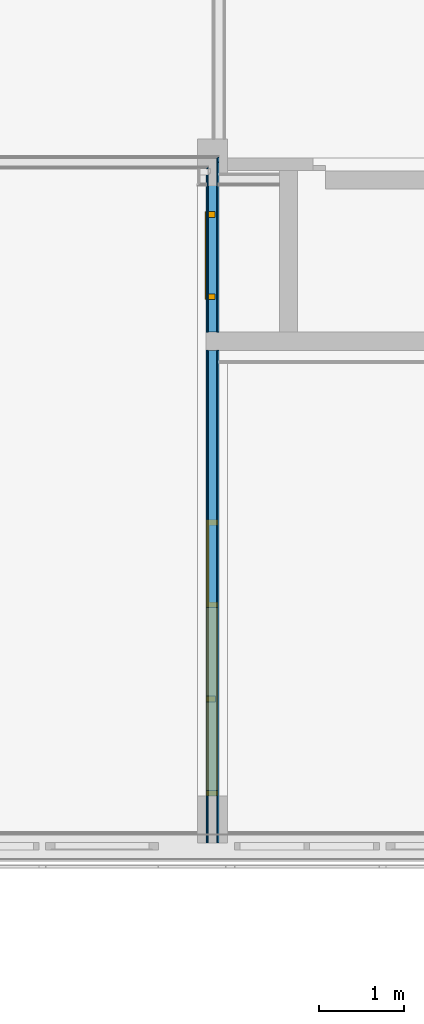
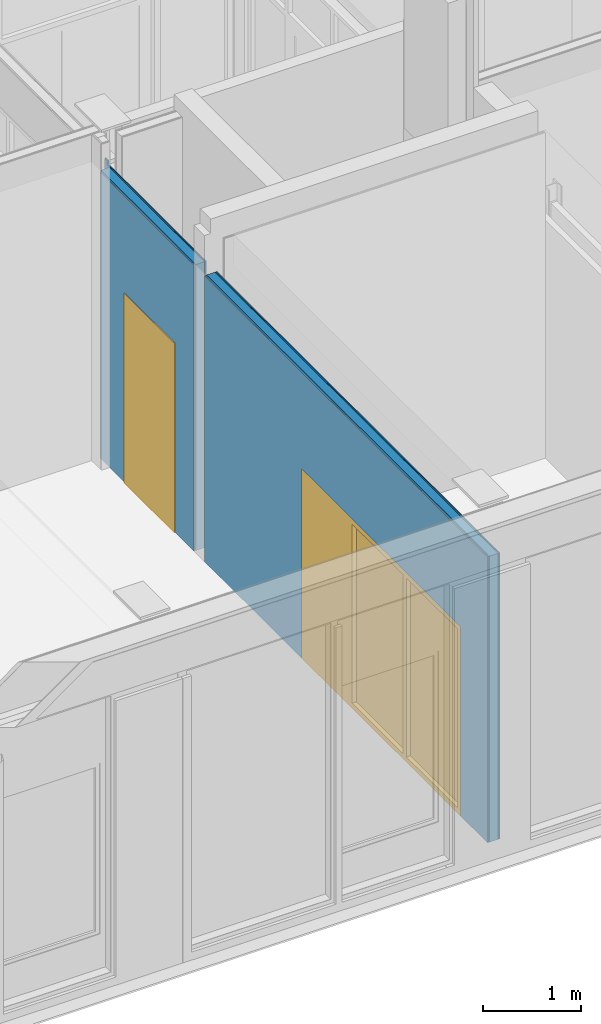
# One storey, part 25 of 109: 5 building element parts, 2 doors, 2 openings, 1 element without a shape of its own.
"""IFC2X3 building model written with IfcOpenShell, lengths in millimetres."""

import ifcopenshell
import ifcopenshell.guid

model = None  # the IFC model being written
_history = None  # IfcOwnerHistory: only IFC2X3 demands one
_inside = {}  # id of a spatial element -> (the spatial element, [elements in it])
_under = {}  # id of a project, library or spatial element -> (it, [spatial elements below it])
_declared = {}  # id of a project -> (the project, [libraries it declares])
_typed = {}  # id of a type object -> (the type object, [elements of that type])
_made_of = {}  # id of a material, layer set ... -> (it, [elements and type objects made of it])


def new_model(schema):
    """Start an empty IFC model of exactly this schema.

    Asked for "IFC4X3", IfcOpenShell would pick the latest addendum, in which some entities
    have other attributes; the version numbers below select the first issue.
    IFC2X3 requires an IfcOwnerHistory on every rooted entity: one is made here for all.
    """
    global model, _history
    if schema == "IFC4X3":
        model = ifcopenshell.file(schema_version=(4, 3, 0, 0))
    else:
        model = ifcopenshell.file(schema=schema)
    _inside.clear()
    _under.clear()
    _declared.clear()
    _typed.clear()
    _made_of.clear()
    _history = None
    if model.schema == "IFC2X3":
        org = make("IfcOrganization", Name="unknown")
        user = make(
            "IfcPersonAndOrganization",
            ThePerson=make("IfcPerson", FamilyName="unknown"),
            TheOrganization=org,
        )
        app = make(
            "IfcApplication",
            ApplicationDeveloper=org,
            Version="unknown",
            ApplicationFullName="unknown",
            ApplicationIdentifier="unknown",
        )
        _history = make(
            "IfcOwnerHistory",
            OwningUser=user,
            OwningApplication=app,
            ChangeAction="ADDED",
            CreationDate=0,
        )
    return model


def make(cls, **values):
    """One entity of the class cls with the attributes given. An attribute that is None is left unset."""
    return model.create_entity(
        cls, **{name: value for name, value in values.items() if value is not None}
    )


def entity(cls, *values):
    """Any entity or typed value of the class cls, its attributes in the order of the schema. None: left unset."""
    e = model.create_entity(cls)
    for i, value in enumerate(values):
        if value is not None:
            e[i] = value
    return e


def rooted(cls, **values):
    """An entity with a GlobalId (a new one), such as an element, a storey or a relation."""
    return make(cls, GlobalId=ifcopenshell.guid.new(), OwnerHistory=_history, **values)


def si_unit(unit_type, name, prefix=None):
    """IfcSIUnit, for example si_unit("LENGTHUNIT", "METRE", prefix="MILLI")."""
    return make("IfcSIUnit", UnitType=unit_type, Prefix=prefix, Name=name)


def converted_unit(unit_type, name, factor, base, dimensions=None, offset=None):
    """IfcConversionBasedUnit, such as the inch: factor (a typed value) times the base unit."""
    return make(
        "IfcConversionBasedUnit"
        if offset is None
        else "IfcConversionBasedUnitWithOffset",
        ConversionOffset=offset,
        Dimensions=None
        if dimensions is None
        else entity("IfcDimensionalExponents", *dimensions),
        UnitType=unit_type,
        Name=name,
        ConversionFactor=make(
            "IfcMeasureWithUnit", ValueComponent=factor, UnitComponent=base
        ),
    )


def derived_unit(unit_type, elements):
    """IfcDerivedUnit: a product of units, each with its exponent."""
    return make(
        "IfcDerivedUnit",
        Elements=[
            make("IfcDerivedUnitElement", Unit=unit, Exponent=power)
            for unit, power in elements
        ],
        UnitType=unit_type,
    )


def money_unit(currency):
    """IfcMonetaryUnit."""
    return make("IfcMonetaryUnit", Currency=currency)


def assignment(units):
    """IfcUnitAssignment: the units of a project."""
    return None if units is None else make("IfcUnitAssignment", Units=units)


def point(xyz):
    """IfcCartesianPoint."""
    return None if xyz is None else make("IfcCartesianPoint", Coordinates=xyz)


def direction(xyz):
    """IfcDirection."""
    return None if xyz is None else make("IfcDirection", DirectionRatios=xyz)


def frame(location, z_axis=None, x_axis=None):
    """IfcAxis2Placement3D, a coordinate frame: its origin and axes. An axis left out is left unset."""
    return make(
        "IfcAxis2Placement3D",
        Location=point(location),
        Axis=direction(z_axis),
        RefDirection=direction(x_axis),
    )


def origin_with_axes():
    """The frame at (0, 0, 0) with the z axis (0, 0, 1) and the x axis (1, 0, 0) written out."""
    return frame((0.0, 0.0, 0.0), z_axis=(0.0, 0.0, 1.0), x_axis=(1.0, 0.0, 0.0))


def place(relative_to, where):
    """IfcLocalPlacement: puts the frame where relative to a parent placement (None: the world)."""
    return make(
        "IfcLocalPlacement", PlacementRelTo=relative_to, RelativePlacement=where
    )


def context(
    kind, dimensions, precision=None, world=None, true_north=None, identifier=None
):
    """IfcGeometricRepresentationContext, for example the 3D "Model" context."""
    return make(
        "IfcGeometricRepresentationContext",
        ContextIdentifier=identifier,
        ContextType=kind,
        CoordinateSpaceDimension=dimensions,
        Precision=precision,
        WorldCoordinateSystem=world,
        TrueNorth=true_north,
    )


def subcontext(parent, identifier, kind, view, scale=None):
    """IfcGeometricRepresentationSubContext, for example "Body" below "Model"."""
    return make(
        "IfcGeometricRepresentationSubContext",
        ContextIdentifier=identifier,
        ContextType=kind,
        ParentContext=parent,
        TargetScale=scale,
        TargetView=view,
    )


def project(units=None, contexts=None):
    """IfcProject with its units and contexts."""
    return rooted(
        "IfcProject",
        Name="project",
        RepresentationContexts=contexts,
        UnitsInContext=assignment(units),
    )


def spatial(cls, under=None, at=None, **own):
    """A site, building, storey or space (cls), placed at a placement, below another one or the project."""
    s = rooted(cls, ObjectPlacement=at, **own)
    if under is not None:
        _under.setdefault(under.id(), (under, []))[1].append(s)
    return s


def faces_of(points, faces, orient=None, outer=None):
    """IfcFace entities. A face is a list of loops; a loop is a list of indices into points, from 0.

    orient and outer hold one flag for each loop. By default every Orientation is true, the
    first loop of a face is its IfcFaceOuterBound and the others are IfcFaceBound.
    """
    made = []
    for i, loops in enumerate(faces):
        bounds = []
        for j, loop in enumerate(loops):
            is_outer = j == 0 if outer is None else outer[i][j]
            bounds.append(
                make(
                    "IfcFaceOuterBound" if is_outer else "IfcFaceBound",
                    Bound=make("IfcPolyLoop", Polygon=[points[k] for k in loop]),
                    Orientation=True if orient is None else orient[i][j],
                )
            )
        made.append(make("IfcFace", Bounds=bounds))
    return made


def open_shell(faces, orient=None, outer=None):
    """The faces of one IfcOpenShell. surface_model builds it on its shared points."""
    return ("IfcOpenShell", faces, orient, outer)


def faceted_brep(points, faces, orient=None, outer=None, voids=None):
    """IfcFacetedBrep: a solid bounded by flat faces; with voids (closed shells), ...WithVoids."""
    shared = [point(p) for p in points]
    hull = make("IfcClosedShell", CfsFaces=faces_of(shared, faces, orient, outer))
    if voids is None:
        return make("IfcFacetedBrep", Outer=hull)
    return make(
        "IfcFacetedBrepWithVoids",
        Outer=hull,
        Voids=[
            make(cls, CfsFaces=faces_of(shared, fs, o, b)) for cls, fs, o, b in voids
        ],
    )


def surface_model(cls, points, shells):
    """IfcFaceBasedSurfaceModel or IfcShellBasedSurfaceModel (cls): surfaces that need not close."""
    shared = [point(p) for p in points]
    made = [make(c, CfsFaces=faces_of(shared, fs, o, b)) for c, fs, o, b in shells]
    if cls == "IfcFaceBasedSurfaceModel":
        return make(cls, FbsmFaces=made)
    return make(cls, SbsmBoundary=made)


def shape(context_of_items, identifier, shape_type, items):
    """IfcShapeRepresentation: the items that make up one representation, for example the "Body"."""
    return make(
        "IfcShapeRepresentation",
        ContextOfItems=context_of_items,
        RepresentationIdentifier=identifier,
        RepresentationType=shape_type,
        Items=items,
    )


def source(mapping_origin, context_of_items, identifier, shape_type, items):
    """IfcRepresentationMap: a shape defined once, which mapped items show again and again."""
    return make(
        "IfcRepresentationMap",
        MappingOrigin=mapping_origin,
        MappedRepresentation=shape(context_of_items, identifier, shape_type, items),
    )


def transform(
    local_origin,
    x_axis=None,
    y_axis=None,
    z_axis=None,
    scale=None,
    scale2=None,
    scale3=None,
    uniform=True,
):
    """IfcCartesianTransformationOperator3D, or its non-uniform kind. x_axis, y_axis, z_axis: its Axis1, 2, 3."""
    if uniform:
        return make(
            "IfcCartesianTransformationOperator3D",
            Axis1=direction(x_axis),
            Axis2=direction(y_axis),
            LocalOrigin=point(local_origin),
            Scale=scale,
            Axis3=direction(z_axis),
        )
    return make(
        "IfcCartesianTransformationOperator3DnonUniform",
        Axis1=direction(x_axis),
        Axis2=direction(y_axis),
        LocalOrigin=point(local_origin),
        Scale=scale,
        Axis3=direction(z_axis),
        Scale2=scale2,
        Scale3=scale3,
    )


def mapped(mapping_source, mapping_target):
    """IfcMappedItem: shows the shape of a source again, moved by a transform."""
    return make(
        "IfcMappedItem", MappingSource=mapping_source, MappingTarget=mapping_target
    )


def material(Name=None, Category=None):
    """IfcMaterial."""
    return make("IfcMaterial", Name=Name, Category=Category)


def made_of(thing, what):
    """Note that an element or type object is made of a material, layer set ...; save() writes the relation."""
    if what is not None:
        _made_of.setdefault(what.id(), (what, []))[1].append(thing)
    return thing


def type_object(cls, material=None, **own):
    """A type object (cls), such as IfcWallType, which elements share."""
    return made_of(rooted(cls, **own), material)


def type_shapes(of_type, sources):
    """Give a type object the sources (RepresentationMaps) that its elements show as mapped items."""
    of_type.RepresentationMaps = sources


def element(
    cls,
    number,
    at=None,
    inside=None,
    cuts=None,
    type_object=None,
    material=None,
    context=None,
    identifier="Body",
    shape_type=None,
    held_by="IfcProductDefinitionShape",
    body=None,
    shapes=None,
    **own,
):
    """One element of the class cls, such as IfcWall. Its Tag is "e" and its number.

    at: its placement. inside: the storey or other place that contains it. cuts: it is an
    opening in that element (IfcRelVoidsElement). A single representation is given by context,
    identifier, shape_type and body (its items); several are given by shapes. held_by: the class
    of the entity that holds the representations. save() writes the other relations.
    """
    e = rooted(cls, Tag="e%d" % number, ObjectPlacement=at, **own)
    if body is not None:
        shapes = [shape(context, identifier, shape_type, body)]
    if shapes is not None:
        e.Representation = make(held_by, Representations=shapes)
    if inside is not None:
        _inside.setdefault(inside.id(), (inside, []))[1].append(e)
    if cuts is not None:
        rooted(
            "IfcRelVoidsElement", RelatingBuildingElement=cuts, RelatedOpeningElement=e
        )
    if type_object is not None:
        _typed.setdefault(type_object.id(), (type_object, []))[1].append(e)
    return made_of(e, material)


def fill(opening, filler):
    """IfcRelFillsElement: the door or window that sits in an opening."""
    return rooted(
        "IfcRelFillsElement",
        RelatingOpeningElement=opening,
        RelatedBuildingElement=filler,
    )


def aggregate(whole, parts):
    """IfcRelAggregates: a whole, such as a stair, and the parts it consists of."""
    return rooted("IfcRelAggregates", RelatingObject=whole, RelatedObjects=parts)


def save(model, path):
    """Write the relations noted so far, then the file.

    IfcRelAggregates (storeys below a building ...), IfcRelContainedInSpatialStructure (elements
    in a storey), IfcRelDefinesByType, IfcRelAssociatesMaterial and IfcRelDeclares: one each for
    every whole, place, type object, material and project.
    """
    for whole, parts in _under.values():
        aggregate(whole, parts)
    for where, things in _inside.values():
        rooted(
            "IfcRelContainedInSpatialStructure",
            RelatedElements=things,
            RelatingStructure=where,
        )
    for kind, things in _typed.values():
        rooted("IfcRelDefinesByType", RelatedObjects=things, RelatingType=kind)
    for what, things in _made_of.values():
        rooted("IfcRelAssociatesMaterial", RelatedObjects=things, RelatingMaterial=what)
    for by, libraries in _declared.values():
        rooted("IfcRelDeclares", RelatingContext=by, RelatedDefinitions=libraries)
    model.write(path)


model = new_model("IFC2X3")

# Units and contexts
model_context = context("Model", 3, precision=0.01, world=origin_with_axes(), true_north=direction((0.0, 1.0)))
body_context = subcontext(model_context, "Body", "Model", "MODEL_VIEW")
ifc_project = project(units=[si_unit("LENGTHUNIT", "METRE", prefix="MILLI"), si_unit("AREAUNIT", "SQUARE_METRE"), si_unit("VOLUMEUNIT", "CUBIC_METRE"), converted_unit("PLANEANGLEUNIT", "DEGREE", entity("IfcPlaneAngleMeasure", 0.0174532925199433), si_unit("PLANEANGLEUNIT", "RADIAN"), dimensions=[0, 0, 0, 0, 0, 0, 0]), money_unit("EUR"), converted_unit("TIMEUNIT", "Year", entity("IfcTimeMeasure", 31557600.0), si_unit("TIMEUNIT", "SECOND"), dimensions=[0, 0, 1, 0, 0, 0, 0]), si_unit("MASSUNIT", "GRAM", prefix="KILO"), si_unit("THERMODYNAMICTEMPERATUREUNIT", "DEGREE_CELSIUS"), si_unit("LUMINOUSINTENSITYUNIT", "LUMEN"), si_unit("ENERGYUNIT", "JOULE", prefix="MEGA"), derived_unit("THERMALCONDUCTANCEUNIT", [(si_unit("POWERUNIT", "WATT"), 1), (si_unit("LENGTHUNIT", "METRE"), -1), (si_unit("THERMODYNAMICTEMPERATUREUNIT", "KELVIN"), -1)]), derived_unit("SPECIFICHEATCAPACITYUNIT", [(si_unit("ENERGYUNIT", "JOULE"), 1), (si_unit("MASSUNIT", "GRAM", prefix="KILO"), -1), (si_unit("THERMODYNAMICTEMPERATUREUNIT", "KELVIN"), -1)]), derived_unit("MASSDENSITYUNIT", [(si_unit("MASSUNIT", "GRAM", prefix="KILO"), 1), (si_unit("VOLUMEUNIT", "CUBIC_METRE"), -1)])], contexts=[model_context])

# Site, building, storey
site_placement = place(None, origin_with_axes())
site = spatial("IfcSite", under=ifc_project, at=site_placement, Name="<site naam>", CompositionType="ELEMENT")
building_placement = place(site_placement, origin_with_axes())
building = spatial("IfcBuilding", under=site, at=building_placement, Name="<Naam gebouw>", CompositionType="ELEMENT")
storey_placement = place(building_placement, origin_with_axes())
storey = spatial("IfcBuildingStorey", under=building, at=storey_placement, Name="00 Begane grond", CompositionType="ELEMENT", Elevation=0.0)

# Door
door_style_1 = type_object("IfcDoorStyle", Name="D1 27", ConstructionType="NOTDEFINED", OperationType="SINGLE_SWING_RIGHT", ParameterTakesPrecedence=False, Sizeable=False)
shared_shape = source(origin_with_axes(), body_context, "Body", "Brep", [
    faceted_brep([(-449.9999999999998, -40.0, 0.0), (-450.0, -39.99999999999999, 2300.0), (-450.0, -114.0, 2300.0), (-450.0, -114.0, 0.0), (-467.0, -40.0, 2300.0), (-467.0, -40.0, 0.0), (-467.0, 0.0, 2300.0), (-517.0, 0.0, 2300.0), (-517.0, -114.0, 2300.0), (-517.0, -114.0, 0.0), (-517.0, 0.0, 0.0), (-467.0, 0.0, 0.0)], [[[0, 1, 2, 3]], [[4, 1, 0, 5]], [[4, 6, 7, 8, 2, 1]], [[3, 2, 8, 9]], [[5, 0, 3, 9, 10, 11]], [[6, 4, 5, 11]], [[6, 11, 10, 7]], [[10, 9, 8, 7]]]),
    faceted_brep([(467.0, -40.0, 2300.0), (450.0, -39.99999999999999, 2300.0), (450.0, -114.0, 2300.0), (517.0, -114.0, 2300.0), (517.0, 0.0, 2300.0), (467.0, 0.0, 2300.0), (467.0, -40.0, 0.0), (450.0, -40.0, 0.0), (450.0, -114.0, 0.0), (517.0, -114.0, 0.0), (517.0, 0.0, 0.0), (467.0, 0.0, 0.0)], [[[0, 1, 2, 3, 4, 5]], [[1, 0, 6, 7]], [[1, 7, 8, 2]], [[3, 2, 8, 9]], [[4, 3, 9, 10]], [[11, 5, 4, 10]], [[0, 5, 11, 6]], [[6, 11, 10, 9, 8, 7]]]),
    faceted_brep([(-467.0, 0.0, 2317.0), (-467.0, 0.0, 2300.0), (-517.0, 0.0, 2300.0), (-517.0, 0.0, 2367.0), (517.0, 0.0, 2367.0), (517.0, 0.0, 2300.0), (467.0, 0.0, 2300.0), (467.0, 0.0, 2317.0), (-467.0, -40.0, 2317.0), (-467.0, -40.0, 2300.0), (-450.0, -39.99999999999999, 2300.0), (-450.0, -114.0, 2300.0), (-517.0, -114.0, 2300.0), (-517.0, -114.0, 2367.0), (517.0, -114.0, 2367.0), (517.0, -114.0, 2300.0), (467.0, -40.0, 2300.0), (450.0, -114.0, 2300.0), (450.0, -39.99999999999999, 2300.0), (467.0, -40.0, 2317.0)], [[[0, 1, 2, 3, 4, 5, 6, 7]], [[1, 0, 8, 9]], [[9, 10, 11, 12, 2, 1]], [[2, 12, 13, 3]], [[3, 13, 14, 4]], [[4, 14, 15, 5]], [[16, 6, 5, 15, 17, 18]], [[7, 6, 16, 19]], [[0, 7, 19, 8]], [[16, 18, 10, 9, 8, 19]], [[10, 18, 17, 11]], [[17, 15, 14, 13, 12, 11]]]),
    faceted_brep([(467.0000000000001, 0.0, 0.0), (467.0000000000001, -40.0, 0.0), (-467.0, -40.0, 0.0), (-467.0, 0.0, 0.0), (467.0000000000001, 0.0, 2317.0), (467.0000000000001, -40.00000000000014, 2317.0), (-467.0, -40.00000000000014, 2317.0), (-467.0, 0.0, 2317.0)], [[[0, 1, 2, 3]], [[4, 5, 1, 0]], [[1, 5, 6, 2]], [[3, 2, 6, 7]], [[0, 3, 7, 4]], [[7, 6, 5, 4]]]),
])
type_shapes(door_style_1, [shared_shape])
wall_placement = place(storey_placement, frame((48000.00000000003, 8000.000000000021, 0.0), z_axis=(0.0, 0.0, 1.0), x_axis=(0.0, -1.0, 0.0)))
opening_1_placement = place(wall_placement, frame((1094.999999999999, 0.0, 0.0), z_axis=(0.0, 0.0, 1.0), x_axis=(1.0, 0.0, 0.0)))
door_1_placement = place(opening_1_placement, frame((450.0000000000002, 0.0, 0.0), z_axis=(0.0, 0.0, 1.0), x_axis=(-1.0, 0.0, 0.0)))
door_1 = element("IfcDoor", 1, at=door_1_placement, inside=storey, type_object=door_style_1, Name="22_BI-A-04 sp_305", ObjectType="DOOR", OverallHeight=2367.0, OverallWidth=1034.0, context=body_context, shape_type="MappedRepresentation", body=[
    mapped(shared_shape, transform((450.0000000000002, 85.00000000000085, 0.0))),
])

door_style_2 = type_object("IfcDoorStyle", Name="D1 zl1-b 27", ConstructionType="NOTDEFINED", OperationType="SINGLE_SWING_RIGHT", ParameterTakesPrecedence=False, Sizeable=False)
opening_2_placement = place(wall_placement, frame((5825.000000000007, 0.0, 0.0), z_axis=(0.0, 0.0, 1.0), x_axis=(1.0, 0.0, 0.0)))
door_2_placement = place(opening_2_placement, frame((1625.0, 0.0, 0.0), z_axis=(0.0, 0.0, 1.0), x_axis=(-1.0, 0.0, 0.0)))
door_2 = element("IfcDoor", 2, at=door_2_placement, inside=storey, type_object=door_style_2, Name="22_BI-E-06_305", ObjectType="DOOR", OverallHeight=2367.0, OverallWidth=3250.0, context=body_context, shape_type="SurfaceModel", body=[
    faceted_brep([(0.0, 74.99999999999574, 0.0), (66.99999999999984, 74.99999999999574, 0.0), (67.00000000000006, -64.00000000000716, 0.0), (0.0, -64.00000000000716, 0.0), (0.0, 74.99999999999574, 2300.0), (66.99999999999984, 74.99999999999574, 2300.0), (66.99999999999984, 74.99999999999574, 67.0), (67.00000000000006, -64.00000000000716, 66.99999999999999), (67.00000000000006, -64.00000000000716, 2300.0), (0.0, -64.00000000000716, 2300.0)], [[[0, 1, 2, 3]], [[0, 4, 5, 6, 1]], [[1, 6, 7, 2]], [[3, 2, 7, 8, 9]], [[4, 0, 3, 9]], [[5, 4, 9, 8]], [[6, 5, 8, 7]]]),
    faceted_brep([(2282.99999999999, 34.99999999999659, 0.0), (2282.99999999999, 34.99999999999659, 2300.0), (2282.99999999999, -64.00000000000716, 2300.0), (2282.99999999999, -64.00000000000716, 0.0), (2265.99999999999, 34.99999999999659, 2300.0), (2265.99999999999, 34.99999999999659, 0.0), (2265.99999999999, 74.99999999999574, 2300.0), (2215.99999999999, 74.99999999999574, 2300.0), (2215.99999999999, -64.00000000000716, 2300.0), (2215.99999999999, -64.00000000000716, 0.0), (2215.99999999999, -64.00000000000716, 66.99999999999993), (2215.99999999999, 74.99999999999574, 0.0), (2265.99999999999, 74.99999999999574, 0.0), (2215.99999999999, 74.99999999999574, 66.99999999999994)], [[[0, 1, 2, 3]], [[4, 1, 0, 5]], [[4, 6, 7, 8, 2, 1]], [[9, 3, 2, 8, 10]], [[5, 0, 3, 9, 11, 12]], [[6, 4, 5, 12]], [[6, 12, 11, 13, 7]], [[13, 10, 8, 7]], [[11, 9, 10, 13]]]),
    faceted_brep([(66.99999999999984, 74.99999999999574, 67.0), (66.99999999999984, 74.99999999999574, 0.0), (67.00000000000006, -64.00000000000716, 0.0), (67.00000000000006, -64.00000000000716, 66.99999999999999), (2215.99999999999, 74.99999999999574, 67.0), (2215.99999999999, 74.99999999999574, 0.0), (2215.99999999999, -64.00000000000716, 0.0), (2215.99999999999, -64.00000000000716, 66.99999999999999)], [[[0, 1, 2, 3]], [[0, 4, 5, 1]], [[1, 5, 6, 2]], [[3, 2, 6, 7]], [[4, 0, 3, 7]], [[5, 4, 7, 6]]]),
    faceted_brep([(3200.0, 34.99999999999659, 2300.0), (3183.0, 34.99999999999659, 2300.0), (3183.0, -64.00000000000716, 2300.0), (3250.0, -64.00000000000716, 2300.0), (3250.0, 74.99999999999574, 2300.0), (3200.0, 74.99999999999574, 2300.0), (3200.0, 34.99999999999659, 0.0), (3183.0, 34.99999999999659, 0.0), (3183.0, -64.00000000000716, 0.0), (3250.0, -64.00000000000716, 0.0), (3250.0, 74.99999999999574, 0.0), (3200.0, 74.99999999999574, 0.0)], [[[0, 1, 2, 3, 4, 5]], [[1, 0, 6, 7]], [[1, 7, 8, 2]], [[3, 2, 8, 9]], [[4, 3, 9, 10]], [[11, 5, 4, 10]], [[0, 5, 11, 6]], [[6, 11, 10, 9, 8, 7]]]),
    faceted_brep([(2265.99999999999, 74.99999999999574, 2317.0), (2265.99999999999, 74.99999999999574, 2300.0), (2215.99999999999, 74.99999999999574, 2300.0), (66.99999999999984, 74.99999999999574, 2300.0), (0.0, 74.99999999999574, 2300.0), (0.0, 74.99999999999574, 2367.0), (3250.0, 74.99999999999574, 2367.0), (3250.0, 74.99999999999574, 2300.0), (3200.0, 74.99999999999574, 2300.0), (3200.0, 74.99999999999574, 2317.0), (2265.99999999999, 34.99999999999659, 2317.0), (2265.99999999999, 34.99999999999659, 2300.0), (3183.0, 34.99999999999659, 2300.0), (3183.0, -64.00000000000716, 2300.0), (2282.99999999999, -64.00000000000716, 2300.0), (2215.99999999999, -64.00000000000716, 2300.0), (67.00000000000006, -64.00000000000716, 2300.0), (0.0, -64.00000000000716, 2300.0), (0.0, -64.00000000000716, 2367.0), (3250.0, -64.00000000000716, 2367.0), (3250.0, -64.00000000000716, 2300.0), (3200.0, 34.99999999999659, 2300.0), (3200.0, 34.99999999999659, 2317.0)], [[[0, 1, 2, 3, 4, 5, 6, 7, 8, 9]], [[1, 0, 10, 11]], [[11, 12, 13, 14, 15, 2, 1]], [[2, 15, 16, 3]], [[3, 16, 17, 4]], [[4, 17, 18, 5]], [[5, 18, 19, 6]], [[6, 19, 20, 7]], [[21, 8, 7, 20, 13, 12]], [[9, 8, 21, 22]], [[0, 9, 22, 10]], [[21, 12, 11, 10, 22]], [[13, 20, 19, 18, 17, 16, 15, 14]]]),
    faceted_brep([(3200.0, 74.99999999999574, 0.0), (3200.0, 34.99999999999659, 0.0), (2265.99999999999, 34.99999999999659, 0.0), (2265.99999999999, 74.99999999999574, 0.0), (3200.0, 74.99999999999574, 2317.0), (3200.0, 34.99999999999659, 2317.0), (2265.99999999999, 34.99999999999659, 2317.0), (2265.99999999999, 74.99999999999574, 2317.0)], [[[0, 1, 2, 3]], [[4, 5, 1, 0]], [[1, 5, 6, 2]], [[3, 2, 6, 7]], [[0, 3, 7, 4]], [[7, 6, 5, 4]]]),
    surface_model("IfcShellBasedSurfaceModel", [(1107.999999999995, 14.99999999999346, 67.0), (1107.999999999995, 14.99999999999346, 2300.0), (66.99999999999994, 14.99999999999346, 2300.0), (66.99999999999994, 14.99999999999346, 67.0)], [open_shell([[[0, 1, 2, 3]]])]),
    surface_model("IfcShellBasedSurfaceModel", [(1107.999999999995, 26.99999999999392, 67.0), (66.99999999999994, 26.99999999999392, 67.0), (66.99999999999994, 26.99999999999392, 2300.0), (1107.999999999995, 26.99999999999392, 2300.0)], [open_shell([[[0, 1, 2, 3]]])]),
    surface_model("IfcShellBasedSurfaceModel", [(2215.99999999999, 14.99999999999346, 67.0), (2215.99999999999, 14.99999999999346, 2300.0), (1174.999999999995, 14.99999999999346, 2300.0), (1174.999999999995, 14.99999999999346, 67.0)], [open_shell([[[0, 1, 2, 3]]])]),
    surface_model("IfcShellBasedSurfaceModel", [(2215.99999999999, 26.99999999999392, 67.0), (1174.999999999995, 26.99999999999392, 67.0), (1174.999999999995, 26.99999999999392, 2300.0), (2215.99999999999, 26.99999999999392, 2300.0)], [open_shell([[[0, 1, 2, 3]]])]),
    faceted_brep([(1107.999999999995, -39.00000000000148, 66.99999999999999), (1107.999999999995, 74.99999999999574, 67.0), (1174.999999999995, 74.99999999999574, 67.0), (1174.999999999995, -39.00000000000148, 66.99999999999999), (1107.999999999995, -39.00000000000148, 2300.0), (1107.999999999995, 74.99999999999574, 2300.0), (1174.999999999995, 74.99999999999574, 2300.0), (1174.999999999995, -39.00000000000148, 2300.0)], [[[0, 1, 2, 3]], [[4, 5, 1, 0]], [[1, 5, 6, 2]], [[3, 2, 6, 7]], [[0, 3, 7, 4]], [[7, 6, 5, 4]]]),
])

# Wall, opening
wall_type = type_object("IfcWallType", Name="MS-01 GF 150 ECO DGS/2.100.2.A 150", PredefinedType="NOTDEFINED")
wall = element("IfcWall", 3, at=wall_placement, inside=storey, type_object=wall_type, Name="22_Binnenwand_MS-01")
opening_1 = element("IfcOpeningElement", 4, at=opening_1_placement, cuts=wall, Name="22_BI-A-04 sp_305", context=body_context, shape_type="Brep", body=[
    faceted_brep([(517.0000000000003, 76.00000000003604, 2367.0), (517.0000000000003, 76.00000000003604, 0.0), (-517.0000000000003, 76.00000000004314, 0.0), (-517.0000000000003, 76.00000000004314, 2367.0), (517.0000000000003, -76.00000000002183, 2367.0), (517.0000000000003, -76.00000000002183, 0.0), (-517.0000000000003, -76.00000000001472, 0.0), (-517.0000000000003, -76.00000000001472, 2367.0)], [[[0, 1, 2, 3]], [[4, 5, 1, 0]], [[5, 6, 2, 1]], [[6, 7, 3, 2]], [[7, 4, 0, 3]], [[6, 5, 4, 7]]]),
])

fill(opening_1, door_1)

# Opening
opening_2 = element("IfcOpeningElement", 5, at=opening_2_placement, cuts=wall, Name="22_BI-E-06_305", context=body_context, shape_type="Brep", body=[
    faceted_brep([(1625.0, 76.00000000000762, 2367.0), (1625.0, 76.00000000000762, 0.0), (-1625.0, 76.00000000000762, 0.0), (-1625.0, 76.00000000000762, 2367.0), (1625.0, -76.00000000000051, 2367.0), (1625.0, -76.00000000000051, 0.0), (-1625.0, -76.00000000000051, 0.0), (-1625.0, -76.00000000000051, 2367.0)], [[[0, 1, 2, 3]], [[4, 5, 1, 0]], [[5, 6, 2, 1]], [[6, 7, 3, 2]], [[7, 4, 0, 3]], [[6, 5, 4, 7]]]),
])

fill(opening_2, door_2)

# Building element part
ifc_material_1 = material(Name="gipsplaat")
building_element_part_1_placement = place(wall_placement, origin_with_axes())
building_element_part_1 = element("IfcBuildingElementPart", 6, at=building_element_part_1_placement, material=ifc_material_1, Name="gipsplaat", context=body_context, shape_type="Brep", body=[
    faceted_brep([(0.0, 62.5, 3620.0), (0.0, 75.00000000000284, 3620.0), (-62.5, 75.00000000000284, 3620.0), (-62.5, 62.5, 3620.0), (0.0, 75.00000000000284, 3570.0), (0.0, 62.5, 3570.0), (1994.999999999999, 75.00000000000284, 3570.0), (1994.999999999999, 75.00000000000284, 0.0), (-54.99999853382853, 75.00000000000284, 0.0), (-54.99999853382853, 75.00000000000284, 3.000000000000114), (-62.5, 75.00000000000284, 3.000000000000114), (-62.5, 62.5, 3.000000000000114), (-54.99999853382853, 62.5, 3.000000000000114), (-54.99999853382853, 62.5, 0.0), (1994.999999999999, 62.5, 0.0), (1994.999999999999, 62.5, 3570.0)], [[[0, 1, 2, 3]], [[4, 1, 0, 5]], [[4, 6, 7, 8, 9, 10, 2, 1]], [[11, 3, 2, 10]], [[5, 0, 3, 11, 12, 13, 14, 15]], [[6, 4, 5, 15]], [[6, 15, 14, 7]], [[7, 14, 13, 8]], [[13, 12, 9, 8]], [[9, 12, 11, 10]]]),
    faceted_brep([(2209.0, 62.5, 3570.0), (2209.0, 75.00000000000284, 3570.0), (2209.0, 75.00000000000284, 0.0), (2209.0, 62.5, 0.0), (8000.000000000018, 75.00000000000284, 3570.0), (8000.000000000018, 62.50000000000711, 3570.0), (8000.000000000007, 75.00000000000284, 0.0), (7450.000040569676, 75.00000000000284, 0.0), (7450.000040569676, 75.00000000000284, 3.000000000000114), (2358.99995869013, 74.99999999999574, 3.000000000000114), (2358.99995869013, 75.00000000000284, 0.0), (2358.99995869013, 62.5, 0.0), (2358.99995869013, 62.5, 3.000000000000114), (7450.000040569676, 62.50000000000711, 3.000000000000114), (7450.000040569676, 62.50000000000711, 0.0), (8000.000000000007, 62.50000000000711, 0.0)], [[[0, 1, 2, 3]], [[4, 1, 0, 5]], [[1, 4, 6, 7, 8, 9, 10, 2]], [[2, 10, 11, 3]], [[5, 0, 3, 11, 12, 13, 14, 15]], [[4, 5, 15, 6]], [[15, 14, 7, 6]], [[13, 8, 7, 14]], [[12, 9, 8, 13]], [[11, 10, 9, 12]]]),
])

ifc_material_2 = material(Name="isolatie_steenwol LSW")
building_element_part_2_placement = place(wall_placement, origin_with_axes())
building_element_part_2 = element("IfcBuildingElementPart", 7, at=building_element_part_2_placement, material=ifc_material_2, Name="isolatie_steenwol LSW", context=body_context, shape_type="Brep", body=[
    faceted_brep([(49.99999999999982, -49.99999999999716, 3570.0), (49.99999999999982, 49.99999999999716, 3570.0), (49.99999999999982, 49.99999999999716, 0.0), (49.99999999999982, -49.99999999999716, 0.0), (1994.999999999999, 49.99999999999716, 3570.0), (1994.999999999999, -49.99999999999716, 3570.0), (1994.999999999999, 49.99999999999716, 0.0), (1994.999999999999, -49.99999999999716, 0.0)], [[[0, 1, 2, 3]], [[4, 1, 0, 5]], [[1, 4, 6, 2]], [[2, 6, 7, 3]], [[5, 0, 3, 7]], [[4, 5, 7, 6]]]),
    faceted_brep([(2209.0, -49.99999999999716, 3570.0), (2209.0, 49.99999999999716, 3570.0), (2209.0, 49.99999999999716, 0.0), (2209.0, -49.99999999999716, 0.0), (8000.000000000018, 50.00000000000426, 3570.0), (8000.000000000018, -49.99999999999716, 3570.0), (8000.000000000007, 50.00000000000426, 0.0), (7450.000040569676, 50.00000000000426, 0.0), (7450.000040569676, 50.00000000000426, 3.000000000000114), (2358.99995869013, 49.99999999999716, 3.000000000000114), (2358.99995869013, 49.99999999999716, 0.0), (2358.99995869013, -10.00001801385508, 0.0), (7450.000040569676, -10.00001801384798, 0.0), (8000.000000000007, -49.99999999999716, 0.0), (7450.000040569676, -10.00001801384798, 3.000000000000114), (2358.99995869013, -10.00001801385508, 3.000000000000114)], [[[0, 1, 2, 3]], [[4, 1, 0, 5]], [[1, 4, 6, 7, 8, 9, 10, 2]], [[11, 12, 7, 6, 13, 3, 2, 10]], [[5, 0, 3, 13]], [[4, 5, 13, 6]], [[14, 8, 7, 12]], [[15, 9, 8, 14]], [[11, 10, 9, 15]], [[14, 12, 11, 15]]]),
])

building_element_part_3_placement = place(wall_placement, origin_with_axes())
building_element_part_3 = element("IfcBuildingElementPart", 8, at=building_element_part_3_placement, material=ifc_material_1, Name="gipsplaat", context=body_context, shape_type="Brep", body=[
    faceted_brep([(62.5, -62.5, 3570.0), (62.5, -49.99999999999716, 3570.0), (62.5, -49.99999999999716, 0.0), (62.5, -62.5, 0.0), (1994.999999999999, -49.99999999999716, 3570.0), (1994.999999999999, -62.5, 3570.0), (1994.999999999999, -49.99999999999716, 0.0), (1994.999999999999, -62.5, 0.0)], [[[0, 1, 2, 3]], [[4, 1, 0, 5]], [[1, 4, 6, 2]], [[6, 7, 3, 2]], [[5, 0, 3, 7]], [[4, 5, 7, 6]]]),
    faceted_brep([(2209.0, -62.5, 3570.0), (2209.0, -49.99999999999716, 3570.0), (2209.0, -49.99999999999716, 0.0), (2209.0, -62.5, 0.0), (8000.000000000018, -49.99999999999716, 3570.0), (8000.000000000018, -62.49999999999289, 3570.0), (8000.000000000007, -49.99999999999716, 0.0), (8000.000000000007, -62.49999999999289, 0.0)], [[[0, 1, 2, 3]], [[4, 1, 0, 5]], [[1, 4, 6, 2]], [[2, 6, 7, 3]], [[5, 0, 3, 7]], [[4, 5, 7, 6]]]),
])

building_element_part_4_placement = place(wall_placement, origin_with_axes())
building_element_part_4 = element("IfcBuildingElementPart", 9, at=building_element_part_4_placement, material=ifc_material_1, Name="gipsplaat", context=body_context, shape_type="Brep", body=[
    faceted_brep([(75.00000000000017, -75.00000000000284, 3570.0), (75.00000000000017, -62.5, 3570.0), (75.00000000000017, -62.5, 0.0), (75.00000000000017, -75.00000000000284, 0.0), (1994.999999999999, -62.5, 3570.0), (1994.999999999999, -75.00000000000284, 3570.0), (1994.999999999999, -62.5, 0.0), (1994.999999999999, -75.00000000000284, 0.0)], [[[0, 1, 2, 3]], [[4, 1, 0, 5]], [[1, 4, 6, 2]], [[6, 7, 3, 2]], [[5, 0, 3, 7]], [[4, 5, 7, 6]]]),
    faceted_brep([(2209.0, -75.00000000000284, 3570.0), (2209.0, -62.5, 3570.0), (2209.0, -62.5, 0.0), (2209.0, -75.00000000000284, 0.0), (8000.000000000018, -62.49999999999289, 3570.0), (8000.000000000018, -74.99999999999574, 3570.0), (8000.000000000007, -62.49999999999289, 0.0), (8000.000000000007, -74.99999999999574, 0.0)], [[[0, 1, 2, 3]], [[4, 1, 0, 5]], [[1, 4, 6, 2]], [[2, 6, 7, 3]], [[5, 0, 3, 7]], [[4, 5, 7, 6]]]),
])

building_element_part_5_placement = place(wall_placement, origin_with_axes())
building_element_part_5 = element("IfcBuildingElementPart", 10, at=building_element_part_5_placement, material=ifc_material_1, Name="gipsplaat", context=body_context, shape_type="Brep", body=[
    faceted_brep([(0.0, 49.99999999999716, 3620.0), (0.0, 62.5, 3620.0), (-50.00000000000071, 62.5, 3620.0), (-50.00000000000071, 49.99999999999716, 3620.0), (0.0, 62.5, 3570.0), (0.0, 49.99999999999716, 3570.0), (1994.999999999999, 62.5, 3570.0), (1994.999999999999, 62.5, 0.0), (-50.00000000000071, 62.5, 0.0), (-50.00000000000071, 49.99999999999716, 0.0), (1994.999999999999, 49.99999999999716, 0.0), (1994.999999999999, 49.99999999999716, 3570.0)], [[[0, 1, 2, 3]], [[4, 1, 0, 5]], [[4, 6, 7, 8, 2, 1]], [[9, 3, 2, 8]], [[5, 0, 3, 9, 10, 11]], [[6, 4, 5, 11]], [[6, 11, 10, 7]], [[9, 8, 7, 10]]]),
    faceted_brep([(2209.0, 49.99999999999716, 3570.0), (2209.0, 62.5, 3570.0), (2209.0, 62.5, 0.0), (2209.0, 49.99999999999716, 0.0), (8000.000000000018, 62.50000000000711, 3570.0), (8000.000000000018, 50.00000000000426, 3570.0), (8000.000000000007, 62.50000000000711, 0.0), (7450.000040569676, 62.50000000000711, 0.0), (7450.000040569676, 62.50000000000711, 3.000000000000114), (2358.99995869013, 62.5, 3.000000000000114), (2358.99995869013, 62.5, 0.0), (2358.99995869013, 49.99999999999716, 0.0), (2358.99995869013, 49.99999999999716, 3.000000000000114), (7450.000040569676, 50.00000000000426, 3.000000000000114), (7450.000040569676, 50.00000000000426, 0.0), (8000.000000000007, 50.00000000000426, 0.0)], [[[0, 1, 2, 3]], [[4, 1, 0, 5]], [[1, 4, 6, 7, 8, 9, 10, 2]], [[2, 10, 11, 3]], [[5, 0, 3, 11, 12, 13, 14, 15]], [[4, 5, 15, 6]], [[15, 14, 7, 6]], [[13, 8, 7, 14]], [[12, 9, 8, 13]], [[11, 10, 9, 12]]]),
])

aggregate(wall, [building_element_part_1, building_element_part_2, building_element_part_3, building_element_part_4, building_element_part_5])

save(model, "model.ifc")
